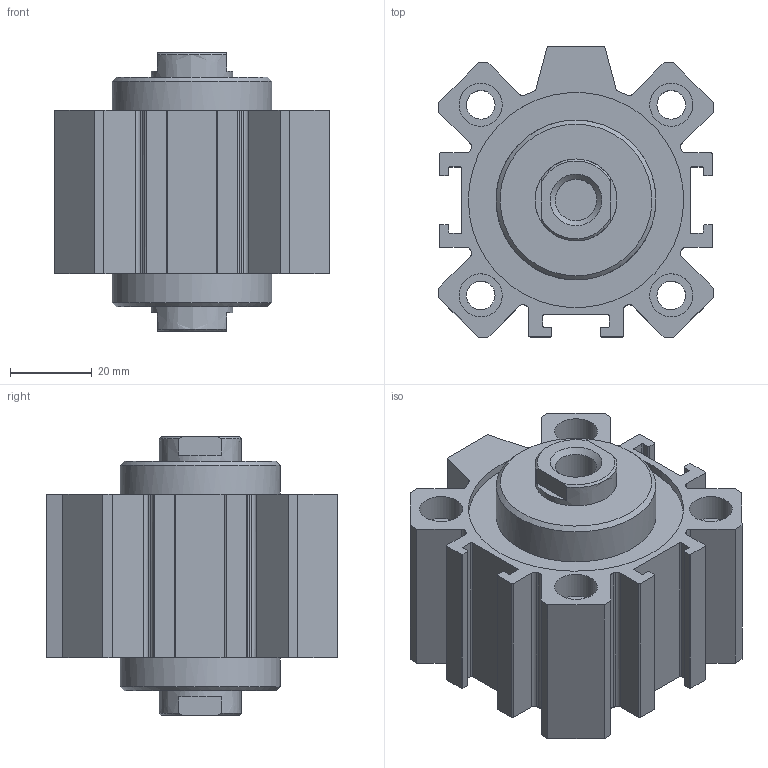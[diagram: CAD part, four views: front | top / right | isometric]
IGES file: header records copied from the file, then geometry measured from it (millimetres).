
Global section: file name: 1514_50_0000; native system: Autodesk Inventor 2014; preprocessor: unknown; author: A. Manieri; date: 20160824.134128; units: millimetre
Bounding box: 67 x 71 x 68 mm (x, y, z)
Volume: 153906 mm3; surface area: 47994.6 mm2
Topology: 2 solids, 2 shells, 178 faces, 482 edges, 328 vertices
Faces by surface type: bspline 178
